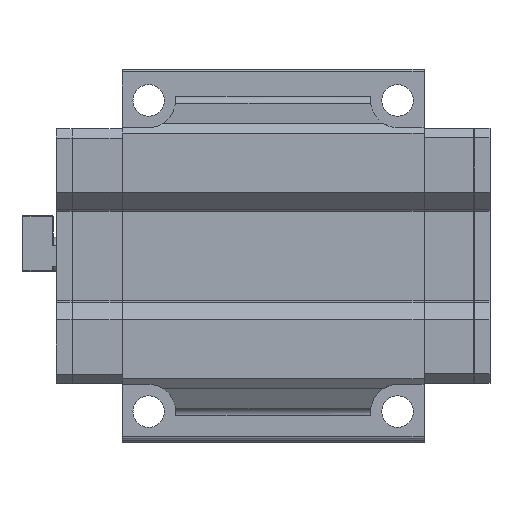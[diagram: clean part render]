
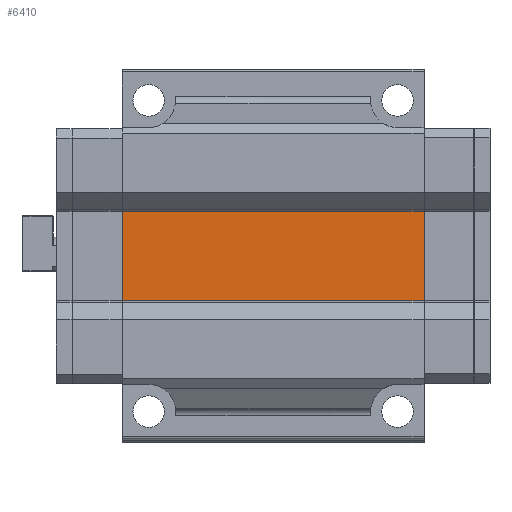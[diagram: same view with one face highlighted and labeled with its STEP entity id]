
A CAD part, front view. The second image highlights one B-rep face of the part: STEP entity #6410.
In plain terms, the highlighted planar face has unit normal (0, -1, 0).
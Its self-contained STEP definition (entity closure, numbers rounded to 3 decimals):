
#93 = DIRECTION ( 'NONE',  ( 0., -1., 0. ) ) ;
#342 = AXIS2_PLACEMENT_3D ( 'NONE', #6336, #93, #6401 ) ;
#416 = ORIENTED_EDGE ( 'NONE', *, *, #9047, .F. ) ;
#1464 = CARTESIAN_POINT ( 'NONE',  ( 48.5, 0., 7.2 ) ) ;
#1828 = VECTOR ( 'NONE', #11189, 1000. ) ;
#3327 = EDGE_LOOP ( 'NONE', ( #6661, #416, #11728, #6599 ) ) ;
#3994 = CARTESIAN_POINT ( 'NONE',  ( -48.5, 0., 7.2 ) ) ;
#4797 = VERTEX_POINT ( 'NONE', #7918 ) ;
#4838 = CARTESIAN_POINT ( 'NONE',  ( 48.5, 0., -14.4 ) ) ;
#5023 = VECTOR ( 'NONE', #11742, 1000. ) ;
#5153 = CARTESIAN_POINT ( 'NONE',  ( -69.7, 0., 14.4 ) ) ;
#5581 = EDGE_CURVE ( 'NONE', #7923, #7053, #9657, .T. ) ;
#6261 = LINE ( 'NONE', #5153, #9131 ) ;
#6336 = CARTESIAN_POINT ( 'NONE',  ( -48.5, 0., 14.4 ) ) ;
#6401 = DIRECTION ( 'NONE',  ( 0., 0., -1. ) ) ;
#6410 = ADVANCED_FACE ( 'NONE', ( #8531 ), #10807, .T. ) ;
#6599 = ORIENTED_EDGE ( 'NONE', *, *, #5581, .T. ) ;
#6661 = ORIENTED_EDGE ( 'NONE', *, *, #10398, .F. ) ;
#7053 = VERTEX_POINT ( 'NONE', #4838 ) ;
#7087 = VECTOR ( 'NONE', #11165, 1000. ) ;
#7918 = CARTESIAN_POINT ( 'NONE',  ( 48.5, 0., 14.4 ) ) ;
#7923 = VERTEX_POINT ( 'NONE', #11776 ) ;
#8531 = FACE_OUTER_BOUND ( 'NONE', #3327, .T. ) ;
#8942 = LINE ( 'NONE', #1464, #7087 ) ;
#9047 = EDGE_CURVE ( 'NONE', #11968, #4797, #6261, .T. ) ;
#9131 = VECTOR ( 'NONE', #11581, 1000. ) ;
#9657 = LINE ( 'NONE', #11813, #5023 ) ;
#10109 = CARTESIAN_POINT ( 'NONE',  ( -48.5, 0., 14.4 ) ) ;
#10398 = EDGE_CURVE ( 'NONE', #4797, #7053, #8942, .T. ) ;
#10807 = PLANE ( 'NONE',  #342 ) ;
#11165 = DIRECTION ( 'NONE',  ( 0., 0., -1. ) ) ;
#11189 = DIRECTION ( 'NONE',  ( 0., 0., 1. ) ) ;
#11581 = DIRECTION ( 'NONE',  ( 1., 0., 0. ) ) ;
#11728 = ORIENTED_EDGE ( 'NONE', *, *, #12864, .F. ) ;
#11742 = DIRECTION ( 'NONE',  ( 1., 0., 0. ) ) ;
#11776 = CARTESIAN_POINT ( 'NONE',  ( -48.5, 0., -14.4 ) ) ;
#11813 = CARTESIAN_POINT ( 'NONE',  ( -69.7, 0., -14.4 ) ) ;
#11968 = VERTEX_POINT ( 'NONE', #10109 ) ;
#12287 = LINE ( 'NONE', #3994, #1828 ) ;
#12864 = EDGE_CURVE ( 'NONE', #7923, #11968, #12287, .T. ) ;
